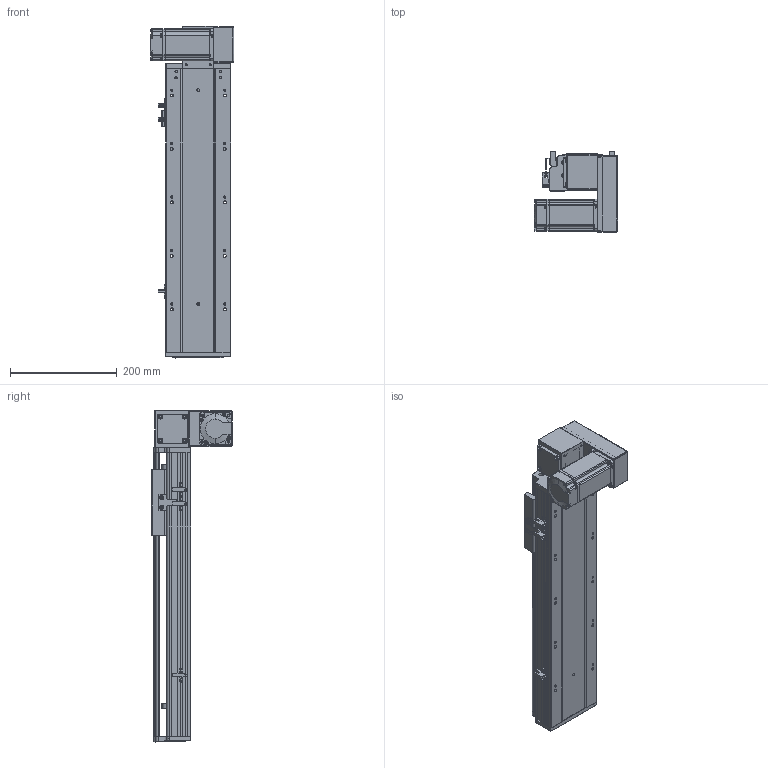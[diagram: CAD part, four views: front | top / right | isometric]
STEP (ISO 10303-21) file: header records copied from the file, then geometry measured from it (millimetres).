
FILE_DESCRIPTION (( 'STEP AP203' ), '1' );
FILE_NAME ('RY120-T-300-DR.SLDASM_300.step', '2021-03-01T03:34:17', ( '盈信电脑' ), ( '东莞市道滘镇水果街19号' ), 'SwSTEP 2.0', 'SolidWorks 2012', '' );
FILE_SCHEMA (( 'CONFIG_CONTROL_DESIGN' ));
Products named in the file (17): RY120-T主同步轮轴承压盖; RY120-T-300-DR.SLDASM_300; RY120-T萇儂欶; RY120-T翋肮祭謫裔啣; RY120-T蹟翐M4; RY120-T萇儂假蚾啣; 15; RY120-T肮祭湍揤踡輸2; RY120-T翋肮祭盓傅釱; RY120-T肮祭湍揤踡輸1; 滅袉蝶18-10; RY120綴裔啣; 覜茼ん672; RY120外置感应片(140共用）; RY120肮祭湍臏賑輸; RY120-T-300-DR倰第奻裔啣_300; RY120-T-300-DR倰第菁釱
Assembly tree (22 placements, depth 2):
  RY120-T-300-DR.SLDASM_300
    RY120-T-300-DR倰第菁釱
    RY120-T-300-DR倰第奻裔啣_300
    RY120肮祭湍臏賑輸
    RY120綴裔啣
    覜茼ん672  x3
    RY120外置感应片(140共用）
    RY120-T肮祭湍揤踡輸1
    RY120-T肮祭湍揤踡輸2
    RY120-T翋肮祭盓傅釱
    滅袉蝶18-10  x2
    RY120-T翋肮祭謫裔啣
    15
    RY120-T萇儂假蚾啣
    RY120-T蹟翐M4  x4
    RY120-T萇儂欶
    RY120-T主同步轮轴承压盖
Bounding box: 155.5 x 150 x 621 mm (x, y, z)
Volume: 2083702.8 mm3; surface area: 743451.9 mm2
Topology: 23 solids, 23 shells, 2640 faces, 7176 edges, 4624 vertices
Faces by surface type: plane 1392, cylinder 958, cone 201, bspline 89
Entity records: 83293 total; most frequent: CARTESIAN_POINT 20742, ORIENTED_EDGE 12864, DIRECTION 12198, EDGE_CURVE 6432, VERTEX_POINT 4211, VECTOR 4120, LINE 4120, AXIS2_PLACEMENT_3D 4039
